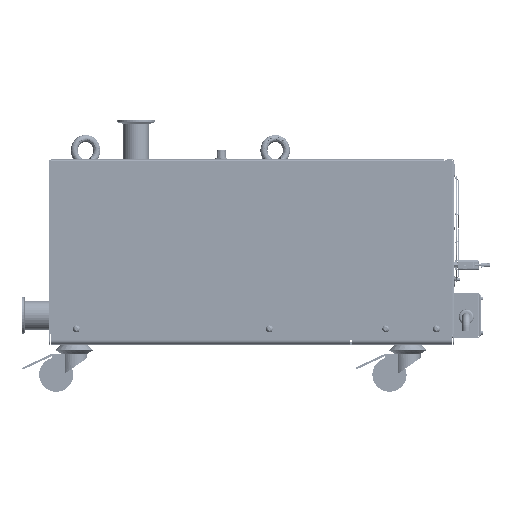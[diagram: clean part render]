
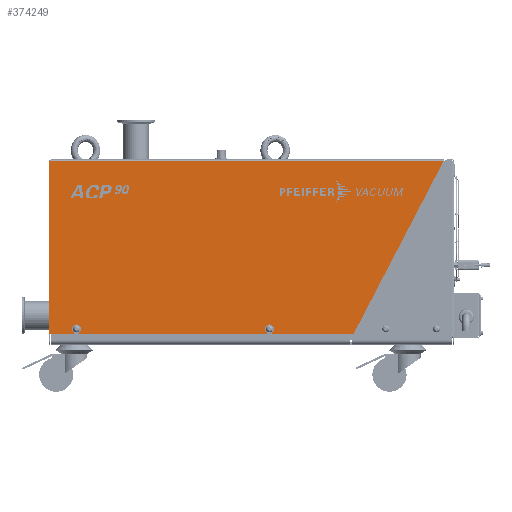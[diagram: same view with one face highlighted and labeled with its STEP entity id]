
A CAD part, front view. The second image highlights one B-rep face of the part: STEP entity #374249.
In plain terms, the highlighted planar face has unit normal (0, -1, 0).
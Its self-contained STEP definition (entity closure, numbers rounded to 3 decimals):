
#361452=DIRECTION('',(1.,0.,0.));
#361453=VECTOR('',#361452,573.238);
#361454=CARTESIAN_POINT('',(-285.838,-156.,3.));
#361455=LINE('',#361454,#361453);
#361468=CARTESIAN_POINT('',(-153.788,-156.,254.5));
#361469=DIRECTION('',(0.,-1.,0.));
#361470=DIRECTION('',(0.,0.,1.));
#361471=AXIS2_PLACEMENT_3D('',#361468,#361469,#361470);
#361473=DIRECTION('',(-1.,0.,0.));
#361474=VECTOR('',#361473,117.188);
#361475=CARTESIAN_POINT('',(-36.6,-156.,255.5));
#361476=LINE('',#361475,#361474);
#361477=CARTESIAN_POINT('',(-36.6,-156.,254.5));
#361478=DIRECTION('',(0.,-1.,0.));
#361479=DIRECTION('',(1.,0.,0.));
#361480=AXIS2_PLACEMENT_3D('',#361477,#361478,#361479);
#361482=DIRECTION('',(0.,0.,-1.));
#361483=VECTOR('',#361482,7.);
#361484=CARTESIAN_POINT('',(-35.6,-156.,254.5));
#361485=LINE('',#361484,#361483);
#361486=CARTESIAN_POINT('',(-31.6,-156.,247.5));
#361487=DIRECTION('',(0.,-1.,0.));
#361488=DIRECTION('',(-1.,0.,0.));
#361489=AXIS2_PLACEMENT_3D('',#361486,#361487,#361488);
#361491=DIRECTION('',(0.,0.,-1.));
#361492=VECTOR('',#361491,7.);
#361493=CARTESIAN_POINT('',(-27.6,-156.,254.5));
#361494=LINE('',#361493,#361492);
#361495=CARTESIAN_POINT('',(-26.6,-156.,254.5));
#361496=DIRECTION('',(0.,-1.,0.));
#361497=DIRECTION('',(0.,0.,1.));
#361498=AXIS2_PLACEMENT_3D('',#361495,#361496,#361497);
#361500=DIRECTION('',(-1.,0.,0.));
#361501=VECTOR('',#361500,272.);
#361502=CARTESIAN_POINT('',(245.4,-156.,255.5));
#361503=LINE('',#361502,#361501);
#361504=CARTESIAN_POINT('',(245.4,-156.,254.5));
#361505=DIRECTION('',(0.,-1.,0.));
#361506=DIRECTION('',(1.,0.,0.));
#361507=AXIS2_PLACEMENT_3D('',#361504,#361505,#361506);
#361509=DIRECTION('',(0.,0.,-1.));
#361510=VECTOR('',#361509,7.);
#361511=CARTESIAN_POINT('',(246.4,-156.,254.5));
#361512=LINE('',#361511,#361510);
#361513=CARTESIAN_POINT('',(250.4,-156.,247.5));
#361514=DIRECTION('',(0.,-1.,0.));
#361515=DIRECTION('',(-1.,0.,0.));
#361516=AXIS2_PLACEMENT_3D('',#361513,#361514,#361515);
#361518=DIRECTION('',(0.,0.,-1.));
#361519=VECTOR('',#361518,7.);
#361520=CARTESIAN_POINT('',(254.4,-156.,254.5));
#361521=LINE('',#361520,#361519);
#361522=CARTESIAN_POINT('',(255.4,-156.,254.5));
#361523=DIRECTION('',(0.,-1.,0.));
#361524=DIRECTION('',(0.,0.,1.));
#361525=AXIS2_PLACEMENT_3D('',#361522,#361523,#361524);
#361527=DIRECTION('',(-1.,0.,0.));
#361528=VECTOR('',#361527,35.);
#361529=CARTESIAN_POINT('',(290.4,-156.,255.5));
#361530=LINE('',#361529,#361528);
#361531=DIRECTION('',(0.,0.,1.));
#361532=VECTOR('',#361531,252.5);
#361533=CARTESIAN_POINT('',(290.4,-156.,3.));
#361534=LINE('',#361533,#361532);
#361535=DIRECTION('',(-1.,0.,0.));
#361536=VECTOR('',#361535,3.);
#361537=CARTESIAN_POINT('',(290.4,-156.,3.));
#361538=LINE('',#361537,#361536);
#361539=DIRECTION('',(-0.462,0.,-0.887));
#361540=VECTOR('',#361539,284.057);
#361541=CARTESIAN_POINT('',(-154.675,-156.,254.962));
#361542=LINE('',#361541,#361540);
#370773=CARTESIAN_POINT('',(290.4,-156.,255.5));
#370775=VERTEX_POINT('',#370773);
#370777=CARTESIAN_POINT('',(-285.838,-156.,3.));
#370779=VERTEX_POINT('',#370777);
#370809=CARTESIAN_POINT('',(246.4,-156.,247.5));
#370810=CARTESIAN_POINT('',(254.4,-156.,247.5));
#370811=VERTEX_POINT('',#370809);
#370812=VERTEX_POINT('',#370810);
#370817=CARTESIAN_POINT('',(-35.6,-156.,247.5));
#370818=CARTESIAN_POINT('',(-27.6,-156.,247.5));
#370819=VERTEX_POINT('',#370817);
#370820=VERTEX_POINT('',#370818);
#370865=CARTESIAN_POINT('',(-153.788,-156.,255.5));
#370866=CARTESIAN_POINT('',(-154.675,-156.,254.962));
#370867=VERTEX_POINT('',#370865);
#370868=VERTEX_POINT('',#370866);
#370881=CARTESIAN_POINT('',(-36.6,-156.,255.5));
#370882=VERTEX_POINT('',#370881);
#370913=CARTESIAN_POINT('',(-35.6,-156.,254.5));
#370914=VERTEX_POINT('',#370913);
#370917=CARTESIAN_POINT('',(-26.6,-156.,255.5));
#370918=CARTESIAN_POINT('',(-27.6,-156.,254.5));
#370919=VERTEX_POINT('',#370917);
#370920=VERTEX_POINT('',#370918);
#370925=CARTESIAN_POINT('',(246.4,-156.,254.5));
#370926=CARTESIAN_POINT('',(245.4,-156.,255.5));
#370927=VERTEX_POINT('',#370925);
#370928=VERTEX_POINT('',#370926);
#370933=CARTESIAN_POINT('',(255.4,-156.,255.5));
#370934=CARTESIAN_POINT('',(254.4,-156.,254.5));
#370935=VERTEX_POINT('',#370933);
#370936=VERTEX_POINT('',#370934);
#373693=CARTESIAN_POINT('',(290.4,-156.,3.));
#373694=CARTESIAN_POINT('',(287.4,-156.,3.));
#373695=VERTEX_POINT('',#373693);
#373696=VERTEX_POINT('',#373694);
#374207=CARTESIAN_POINT('',(-150.828,-156.,0.));
#374208=DIRECTION('',(0.,-1.,0.));
#374209=DIRECTION('',(1.,0.,0.));
#374210=AXIS2_PLACEMENT_3D('',#374207,#374208,#374209);
#374211=PLANE('',#374210);
#374213=ORIENTED_EDGE('',*,*,#374212,.F.);
#374215=ORIENTED_EDGE('',*,*,#374214,.F.);
#374217=ORIENTED_EDGE('',*,*,#374216,.F.);
#374219=ORIENTED_EDGE('',*,*,#374218,.T.);
#374221=ORIENTED_EDGE('',*,*,#374220,.T.);
#374223=ORIENTED_EDGE('',*,*,#374222,.F.);
#374225=ORIENTED_EDGE('',*,*,#374224,.F.);
#374227=ORIENTED_EDGE('',*,*,#374226,.F.);
#374229=ORIENTED_EDGE('',*,*,#374228,.F.);
#374231=ORIENTED_EDGE('',*,*,#374230,.T.);
#374233=ORIENTED_EDGE('',*,*,#374232,.T.);
#374235=ORIENTED_EDGE('',*,*,#374234,.F.);
#374237=ORIENTED_EDGE('',*,*,#374236,.F.);
#374239=ORIENTED_EDGE('',*,*,#374238,.F.);
#374241=ORIENTED_EDGE('',*,*,#374240,.F.);
#374243=ORIENTED_EDGE('',*,*,#374242,.T.);
#374244=ORIENTED_EDGE('',*,*,#374198,.F.);
#374246=ORIENTED_EDGE('',*,*,#374245,.F.);
#374247=EDGE_LOOP('',(#374213,#374215,#374217,#374219,#374221,#374223,#374225,
#374227,#374229,#374231,#374233,#374235,#374237,#374239,#374241,#374243,#374244,
#374246));
#374248=FACE_OUTER_BOUND('',#374247,.F.);
#374249=ADVANCED_FACE('',(#374248),#374211,.T.);
#361472=CIRCLE('',#361471,1.);
#361481=CIRCLE('',#361480,1.);
#361490=CIRCLE('',#361489,4.);
#361499=CIRCLE('',#361498,1.);
#361508=CIRCLE('',#361507,1.);
#361517=CIRCLE('',#361516,4.);
#361526=CIRCLE('',#361525,1.);
#374198=EDGE_CURVE('',#370779,#373696,#361455,.T.);
#374212=EDGE_CURVE('',#370867,#370868,#361472,.T.);
#374214=EDGE_CURVE('',#370882,#370867,#361476,.T.);
#374216=EDGE_CURVE('',#370914,#370882,#361481,.T.);
#374218=EDGE_CURVE('',#370914,#370819,#361485,.T.);
#374220=EDGE_CURVE('',#370819,#370820,#361490,.T.);
#374222=EDGE_CURVE('',#370920,#370820,#361494,.T.);
#374224=EDGE_CURVE('',#370919,#370920,#361499,.T.);
#374226=EDGE_CURVE('',#370928,#370919,#361503,.T.);
#374228=EDGE_CURVE('',#370927,#370928,#361508,.T.);
#374230=EDGE_CURVE('',#370927,#370811,#361512,.T.);
#374232=EDGE_CURVE('',#370811,#370812,#361517,.T.);
#374234=EDGE_CURVE('',#370936,#370812,#361521,.T.);
#374236=EDGE_CURVE('',#370935,#370936,#361526,.T.);
#374238=EDGE_CURVE('',#370775,#370935,#361530,.T.);
#374240=EDGE_CURVE('',#373695,#370775,#361534,.T.);
#374242=EDGE_CURVE('',#373695,#373696,#361538,.T.);
#374245=EDGE_CURVE('',#370868,#370779,#361542,.T.);
